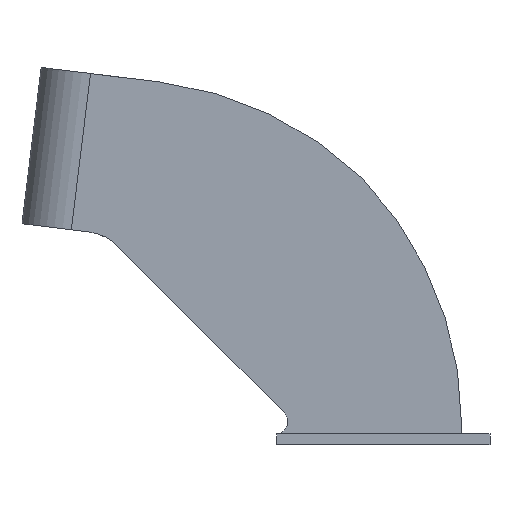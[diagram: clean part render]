
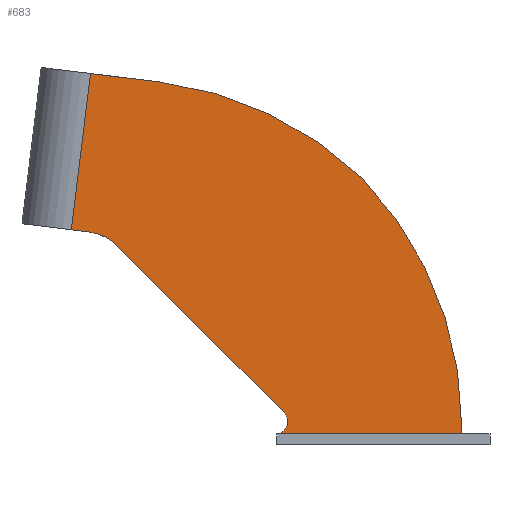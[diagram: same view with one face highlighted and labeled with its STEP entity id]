
A CAD part, front view. The second image highlights one B-rep face of the part: STEP entity #683.
In plain terms, the highlighted planar face has unit normal (0, -1, 0).
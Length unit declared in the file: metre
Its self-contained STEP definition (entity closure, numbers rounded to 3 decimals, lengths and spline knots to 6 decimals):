
#50=CIRCLE('',#755,0.028);
#51=CIRCLE('',#756,0.007);
#52=CIRCLE('',#757,0.2);
#53=CIRCLE('',#758,0.2);
#158=ORIENTED_EDGE('',*,*,#315,.F.);
#159=ORIENTED_EDGE('',*,*,#316,.T.);
#160=ORIENTED_EDGE('',*,*,#317,.T.);
#161=ORIENTED_EDGE('',*,*,#318,.T.);
#162=ORIENTED_EDGE('',*,*,#319,.T.);
#163=ORIENTED_EDGE('',*,*,#320,.T.);
#164=ORIENTED_EDGE('',*,*,#321,.T.);
#165=ORIENTED_EDGE('',*,*,#311,.F.);
#166=ORIENTED_EDGE('',*,*,#286,.T.);
#167=ORIENTED_EDGE('',*,*,#322,.F.);
#168=ORIENTED_EDGE('',*,*,#323,.T.);
#169=ORIENTED_EDGE('',*,*,#324,.T.);
#286=EDGE_CURVE('',#379,#380,#434,.T.);
#311=EDGE_CURVE('',#379,#397,#451,.T.);
#315=EDGE_CURVE('',#398,#399,#455,.T.);
#316=EDGE_CURVE('',#398,#400,#456,.T.);
#317=EDGE_CURVE('',#400,#401,#457,.T.);
#318=EDGE_CURVE('',#401,#402,#50,.T.);
#319=EDGE_CURVE('',#402,#403,#458,.T.);
#320=EDGE_CURVE('',#403,#404,#459,.T.);
#321=EDGE_CURVE('',#404,#397,#51,.T.);
#322=EDGE_CURVE('',#405,#380,#460,.T.);
#323=EDGE_CURVE('',#405,#406,#52,.F.);
#324=EDGE_CURVE('',#406,#399,#53,.F.);
#379=VERTEX_POINT('',#1061);
#380=VERTEX_POINT('',#1062);
#397=VERTEX_POINT('',#1109);
#398=VERTEX_POINT('',#1121);
#399=VERTEX_POINT('',#1122);
#400=VERTEX_POINT('',#1124);
#401=VERTEX_POINT('',#1126);
#402=VERTEX_POINT('',#1128);
#403=VERTEX_POINT('',#1130);
#404=VERTEX_POINT('',#1132);
#405=VERTEX_POINT('',#1135);
#406=VERTEX_POINT('',#1137);
#434=LINE('',#1060,#498);
#451=LINE('',#1108,#515);
#455=LINE('',#1120,#519);
#456=LINE('',#1123,#520);
#457=LINE('',#1125,#521);
#458=LINE('',#1129,#522);
#459=LINE('',#1131,#523);
#460=LINE('',#1134,#524);
#498=VECTOR('',#846,1.);
#515=VECTOR('',#889,1.);
#519=VECTOR('',#907,1.);
#520=VECTOR('',#908,1.);
#521=VECTOR('',#909,1.);
#522=VECTOR('',#912,1.);
#523=VECTOR('',#913,1.);
#524=VECTOR('',#916,1.);
#569=EDGE_LOOP('',(#158,#159,#160,#161,#162,#163,#164,#165,#166,#167,#168,
#169));
#623=FACE_BOUND('',#569,.T.);
#658=PLANE('',#754);
#683=ADVANCED_FACE('',(#623),#658,.F.);
#754=AXIS2_PLACEMENT_3D('',#1119,#905,#906);
#755=AXIS2_PLACEMENT_3D('',#1127,#910,#911);
#756=AXIS2_PLACEMENT_3D('',#1133,#914,#915);
#757=AXIS2_PLACEMENT_3D('',#1136,#917,#918);
#758=AXIS2_PLACEMENT_3D('',#1138,#919,#920);
#846=DIRECTION('',(1.,0.,0.));
#889=DIRECTION('',(0.,0.,1.));
#905=DIRECTION('',(0.,1.,0.));
#906=DIRECTION('',(0.,0.,1.));
#907=DIRECTION('',(0.993,0.,-0.122));
#908=DIRECTION('',(-0.122,0.,-0.993));
#909=DIRECTION('',(0.993,0.,-0.122));
#910=DIRECTION('',(0.,1.,0.));
#911=DIRECTION('',(0.,0.,1.));
#912=DIRECTION('',(0.687,0.,-0.726));
#913=DIRECTION('',(0.707,0.,-0.707));
#914=DIRECTION('',(0.,1.,0.));
#915=DIRECTION('',(0.,0.,1.));
#916=DIRECTION('',(0.,0.,-1.));
#917=DIRECTION('',(0.,1.,0.));
#918=DIRECTION('',(0.,0.,1.));
#919=DIRECTION('',(0.,1.,0.));
#920=DIRECTION('',(0.,0.,1.));
#1060=CARTESIAN_POINT('',(0.,-0.028,0.006));
#1061=CARTESIAN_POINT('',(-0.06,-0.028,0.006));
#1062=CARTESIAN_POINT('',(0.044,-0.028,0.006));
#1108=CARTESIAN_POINT('',(-0.06,-0.028,0.094));
#1109=CARTESIAN_POINT('',(-0.06,-0.028,0.006058));
#1119=CARTESIAN_POINT('',(0.,-0.028,0.094));
#1120=CARTESIAN_POINT('',(-0.145167,-0.028,0.206548));
#1121=CARTESIAN_POINT('',(-0.165018,-0.028,0.208985));
#1122=CARTESIAN_POINT('',(-0.126176,-0.028,0.204216));
#1123=CARTESIAN_POINT('',(-0.175823,-0.028,0.120985));
#1124=CARTESIAN_POINT('',(-0.175823,-0.028,0.120985));
#1125=CARTESIAN_POINT('',(-0.203615,-0.028,0.124398));
#1126=CARTESIAN_POINT('',(-0.165972,-0.028,0.119776));
#1127=CARTESIAN_POINT('',(-0.169385,-0.028,0.091984));
#1128=CARTESIAN_POINT('',(-0.149048,-0.028,0.11123));
#1129=CARTESIAN_POINT('',(-0.150898,-0.028,0.113186));
#1130=CARTESIAN_POINT('',(-0.145823,-0.028,0.107823));
#1131=CARTESIAN_POINT('',(-0.145823,-0.028,0.107823));
#1132=CARTESIAN_POINT('',(-0.05595,-0.028,0.01795));
#1133=CARTESIAN_POINT('',(-0.060899,-0.028,0.013));
#1134=CARTESIAN_POINT('',(0.044,-0.028,0.094));
#1135=CARTESIAN_POINT('',(0.044,-0.028,0.011157));
#1136=CARTESIAN_POINT('',(-0.156,-0.028,0.011157));
#1137=CARTESIAN_POINT('',(-0.01188,-0.028,0.149827));
#1138=CARTESIAN_POINT('',(-0.150549,-0.028,0.005707));
